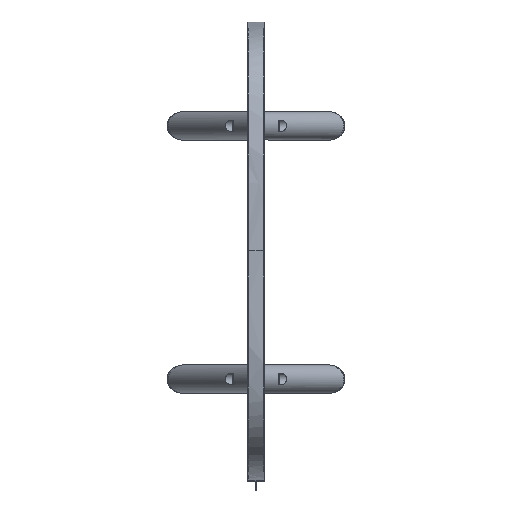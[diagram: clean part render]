
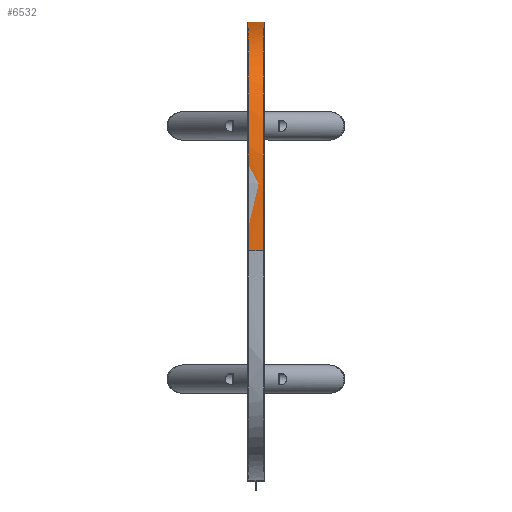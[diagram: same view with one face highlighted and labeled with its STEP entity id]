
A CAD part, top view. The second image highlights one B-rep face of the part: STEP entity #6532.
In plain terms, the highlighted free-form (B-spline) face has degree [3, 1] with [31, 2] control points.
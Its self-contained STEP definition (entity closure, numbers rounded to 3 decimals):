
#373=B_SPLINE_SURFACE_WITH_KNOTS('',3,1,((#9244,#9245),(#9246,#9247),(#9248,
#9249),(#9250,#9251),(#9252,#9253),(#9254,#9255),(#9256,#9257),(#9258,#9259),
(#9260,#9261),(#9262,#9263),(#9264,#9265),(#9266,#9267),(#9268,#9269),(#9270,
#9271),(#9272,#9273),(#9274,#9275),(#9276,#9277),(#9278,#9279),(#9280,#9281),
(#9282,#9283),(#9284,#9285),(#9286,#9287),(#9288,#9289),(#9290,#9291),(#9292,
#9293),(#9294,#9295),(#9296,#9297),(#9298,#9299),(#9300,#9301),(#9302,#9303),
(#9304,#9305)),.UNSPECIFIED.,.F.,.F.,.F.,(4,3,3,3,3,3,3,3,3,3,4),(2,2),
(-1.,-0.881,-0.73,-0.577,-0.423,
-0.266,-0.134,-0.015,-0.001,
0.,0.009),(0.,3.72),.UNSPECIFIED.);
#575=FACE_OUTER_BOUND('',#972,.T.);
#972=EDGE_LOOP('',(#4423,#4424,#4425,#4426));
#1390=LINE('',#9180,#1962);
#1391=LINE('',#9243,#1963);
#1962=VECTOR('',#7450,10.);
#1963=VECTOR('',#7451,10.);
#2527=B_SPLINE_CURVE_WITH_KNOTS('',3,(#8856,#8857,#8858,#8859,#8860,#8861,
#8862,#8863,#8864,#8865,#8866,#8867,#8868,#8869,#8870,#8871,#8872,#8873),
 .UNSPECIFIED.,.F.,.F.,(4,2,2,2,2,2,2,2,4),(-105.315,-103.866,
-91.324,-77.334,-60.869,-44.638,
-28.476,-12.5,0.),.UNSPECIFIED.);
#2533=B_SPLINE_CURVE_WITH_KNOTS('',3,(#9020,#9021,#9022,#9023,#9024,#9025,
#9026,#9027,#9028,#9029,#9030,#9031,#9032,#9033,#9034,#9035,#9036,#9037),
 .UNSPECIFIED.,.F.,.F.,(4,2,2,2,2,2,2,2,4),(-68.302,-60.318,
-50.113,-39.79,-29.423,-18.906,
-9.97,-1.959,-1.033),.UNSPECIFIED.);
#2740=VERTEX_POINT('',#8825);
#2742=VERTEX_POINT('',#8855);
#2752=VERTEX_POINT('',#8938);
#2757=VERTEX_POINT('',#9018);
#3396=EDGE_CURVE('',#2742,#2740,#2527,.F.);
#3412=EDGE_CURVE('',#2757,#2752,#2533,.T.);
#3423=EDGE_CURVE('',#2742,#2757,#1390,.T.);
#3424=EDGE_CURVE('',#2752,#2740,#1391,.T.);
#4423=ORIENTED_EDGE('',*,*,#3424,.F.);
#4424=ORIENTED_EDGE('',*,*,#3412,.F.);
#4425=ORIENTED_EDGE('',*,*,#3423,.F.);
#4426=ORIENTED_EDGE('',*,*,#3396,.T.);
#6532=ADVANCED_FACE('',(#575),#373,.T.);
#7450=DIRECTION('',(1.,0.,0.));
#7451=DIRECTION('',(-1.,0.,0.));
#8825=CARTESIAN_POINT('',(-14.,0.,836.125));
#8855=CARTESIAN_POINT('',(-14.,400.,435.125));
#8856=CARTESIAN_POINT('Ctrl Pts',(-14.,0.,
836.125));
#8857=CARTESIAN_POINT('Ctrl Pts',(-14.,5.063,836.123));
#8858=CARTESIAN_POINT('Ctrl Pts',(-14.,10.062,836.105));
#8859=CARTESIAN_POINT('Ctrl Pts',(-14.,57.706,835.79));
#8860=CARTESIAN_POINT('Ctrl Pts',(-14.,95.546,834.369));
#8861=CARTESIAN_POINT('Ctrl Pts',(-14.,166.079,828.837));
#8862=CARTESIAN_POINT('Ctrl Pts',(-14.,197.697,824.444));
#8863=CARTESIAN_POINT('Ctrl Pts',(-14.,256.519,811.082));
#8864=CARTESIAN_POINT('Ctrl Pts',(-14.,281.988,801.455));
#8865=CARTESIAN_POINT('Ctrl Pts',(-14.,323.347,775.766));
#8866=CARTESIAN_POINT('Ctrl Pts',(-14.,339.374,759.784));
#8867=CARTESIAN_POINT('Ctrl Pts',(-14.,364.903,718.915));
#8868=CARTESIAN_POINT('Ctrl Pts',(-14.,374.443,694.06));
#8869=CARTESIAN_POINT('Ctrl Pts',(-14.,388.776,632.586));
#8870=CARTESIAN_POINT('Ctrl Pts',(-14.,393.618,596.065));
#8871=CARTESIAN_POINT('Ctrl Pts',(-14.,398.868,517.784));
#8872=CARTESIAN_POINT('Ctrl Pts',(-14.,400.,478.878));
#8873=CARTESIAN_POINT('Ctrl Pts',(-14.,400.,435.125));
#8938=CARTESIAN_POINT('',(14.,0.,836.125));
#9018=CARTESIAN_POINT('',(14.,400.,435.125));
#9020=CARTESIAN_POINT('Ctrl Pts',(14.,400.,435.125));
#9021=CARTESIAN_POINT('Ctrl Pts',(14.,400.,478.878));
#9022=CARTESIAN_POINT('Ctrl Pts',(14.,398.868,517.784));
#9023=CARTESIAN_POINT('Ctrl Pts',(14.,393.618,596.065));
#9024=CARTESIAN_POINT('Ctrl Pts',(14.,388.776,632.586));
#9025=CARTESIAN_POINT('Ctrl Pts',(14.,374.443,694.06));
#9026=CARTESIAN_POINT('Ctrl Pts',(14.,364.903,718.915));
#9027=CARTESIAN_POINT('Ctrl Pts',(14.,339.374,759.784));
#9028=CARTESIAN_POINT('Ctrl Pts',(14.,323.347,775.766));
#9029=CARTESIAN_POINT('Ctrl Pts',(14.,281.988,801.455));
#9030=CARTESIAN_POINT('Ctrl Pts',(14.,256.519,811.082));
#9031=CARTESIAN_POINT('Ctrl Pts',(14.,197.697,824.444));
#9032=CARTESIAN_POINT('Ctrl Pts',(14.,166.079,828.837));
#9033=CARTESIAN_POINT('Ctrl Pts',(14.,95.546,834.369));
#9034=CARTESIAN_POINT('Ctrl Pts',(14.,57.706,835.79));
#9035=CARTESIAN_POINT('Ctrl Pts',(14.,10.062,836.105));
#9036=CARTESIAN_POINT('Ctrl Pts',(14.,5.063,836.123));
#9037=CARTESIAN_POINT('Ctrl Pts',(14.,0.,836.125));
#9180=CARTESIAN_POINT('',(0.,400.,435.125));
#9243=CARTESIAN_POINT('',(14.,0.,836.125));
#9244=CARTESIAN_POINT('Ctrl Pts',(-15.5,400.,435.125));
#9245=CARTESIAN_POINT('Ctrl Pts',(21.7,400.,435.125));
#9246=CARTESIAN_POINT('Ctrl Pts',(-15.5,400.,478.878));
#9247=CARTESIAN_POINT('Ctrl Pts',(21.7,400.,478.878));
#9248=CARTESIAN_POINT('Ctrl Pts',(-15.5,398.868,517.784));
#9249=CARTESIAN_POINT('Ctrl Pts',(21.7,398.868,517.784));
#9250=CARTESIAN_POINT('Ctrl Pts',(-15.5,396.564,552.147));
#9251=CARTESIAN_POINT('Ctrl Pts',(21.7,396.564,552.147));
#9252=CARTESIAN_POINT('Ctrl Pts',(-15.5,393.618,596.065));
#9253=CARTESIAN_POINT('Ctrl Pts',(21.7,393.618,596.065));
#9254=CARTESIAN_POINT('Ctrl Pts',(-15.5,388.776,632.586));
#9255=CARTESIAN_POINT('Ctrl Pts',(21.7,388.776,632.586));
#9256=CARTESIAN_POINT('Ctrl Pts',(-15.5,381.651,663.145));
#9257=CARTESIAN_POINT('Ctrl Pts',(21.7,381.651,663.145));
#9258=CARTESIAN_POINT('Ctrl Pts',(-15.5,374.443,694.06));
#9259=CARTESIAN_POINT('Ctrl Pts',(21.7,374.443,694.06));
#9260=CARTESIAN_POINT('Ctrl Pts',(-15.5,364.903,718.915));
#9261=CARTESIAN_POINT('Ctrl Pts',(21.7,364.903,718.915));
#9262=CARTESIAN_POINT('Ctrl Pts',(-15.5,352.166,739.306));
#9263=CARTESIAN_POINT('Ctrl Pts',(21.7,352.166,739.306));
#9264=CARTESIAN_POINT('Ctrl Pts',(-15.5,339.374,759.784));
#9265=CARTESIAN_POINT('Ctrl Pts',(21.7,339.374,759.784));
#9266=CARTESIAN_POINT('Ctrl Pts',(-15.5,323.347,775.766));
#9267=CARTESIAN_POINT('Ctrl Pts',(21.7,323.347,775.766));
#9268=CARTESIAN_POINT('Ctrl Pts',(-15.5,302.815,788.518));
#9269=CARTESIAN_POINT('Ctrl Pts',(21.7,302.815,788.518));
#9270=CARTESIAN_POINT('Ctrl Pts',(-15.5,281.988,801.455));
#9271=CARTESIAN_POINT('Ctrl Pts',(21.7,281.988,801.455));
#9272=CARTESIAN_POINT('Ctrl Pts',(-15.5,256.519,811.082));
#9273=CARTESIAN_POINT('Ctrl Pts',(21.7,256.519,811.082));
#9274=CARTESIAN_POINT('Ctrl Pts',(-15.5,224.718,818.305));
#9275=CARTESIAN_POINT('Ctrl Pts',(21.7,224.718,818.305));
#9276=CARTESIAN_POINT('Ctrl Pts',(-15.5,197.697,824.444));
#9277=CARTESIAN_POINT('Ctrl Pts',(21.7,197.697,824.444));
#9278=CARTESIAN_POINT('Ctrl Pts',(-15.5,166.079,828.837));
#9279=CARTESIAN_POINT('Ctrl Pts',(21.7,166.079,828.837));
#9280=CARTESIAN_POINT('Ctrl Pts',(-15.5,128.886,831.754));
#9281=CARTESIAN_POINT('Ctrl Pts',(21.7,128.886,831.754));
#9282=CARTESIAN_POINT('Ctrl Pts',(-15.5,95.546,834.369));
#9283=CARTESIAN_POINT('Ctrl Pts',(21.7,95.546,834.369));
#9284=CARTESIAN_POINT('Ctrl Pts',(-15.5,57.706,835.79));
#9285=CARTESIAN_POINT('Ctrl Pts',(21.7,57.706,835.79));
#9286=CARTESIAN_POINT('Ctrl Pts',(-15.5,14.996,836.073));
#9287=CARTESIAN_POINT('Ctrl Pts',(21.7,14.996,836.073));
#9288=CARTESIAN_POINT('Ctrl Pts',(-15.5,10.062,836.105));
#9289=CARTESIAN_POINT('Ctrl Pts',(21.7,10.062,836.105));
#9290=CARTESIAN_POINT('Ctrl Pts',(-15.5,5.063,836.123));
#9291=CARTESIAN_POINT('Ctrl Pts',(21.7,5.063,836.123));
#9292=CARTESIAN_POINT('Ctrl Pts',(-15.5,0.,
836.125));
#9293=CARTESIAN_POINT('Ctrl Pts',(21.7,0.,836.125));
#9294=CARTESIAN_POINT('Ctrl Pts',(-15.5,-0.333,
836.125));
#9295=CARTESIAN_POINT('Ctrl Pts',(21.7,-0.333,836.125));
#9296=CARTESIAN_POINT('Ctrl Pts',(-15.5,-0.666,
836.125));
#9297=CARTESIAN_POINT('Ctrl Pts',(21.7,-0.666,836.125));
#9298=CARTESIAN_POINT('Ctrl Pts',(-15.5,-1.,836.125));
#9299=CARTESIAN_POINT('Ctrl Pts',(21.7,-1.,836.125));
#9300=CARTESIAN_POINT('Ctrl Pts',(-15.5,-4.351,836.125));
#9301=CARTESIAN_POINT('Ctrl Pts',(21.7,-4.351,836.125));
#9302=CARTESIAN_POINT('Ctrl Pts',(-15.5,-7.703,836.125));
#9303=CARTESIAN_POINT('Ctrl Pts',(21.7,-7.703,836.125));
#9304=CARTESIAN_POINT('Ctrl Pts',(-15.5,-11.054,836.125));
#9305=CARTESIAN_POINT('Ctrl Pts',(21.7,-11.054,836.125));
